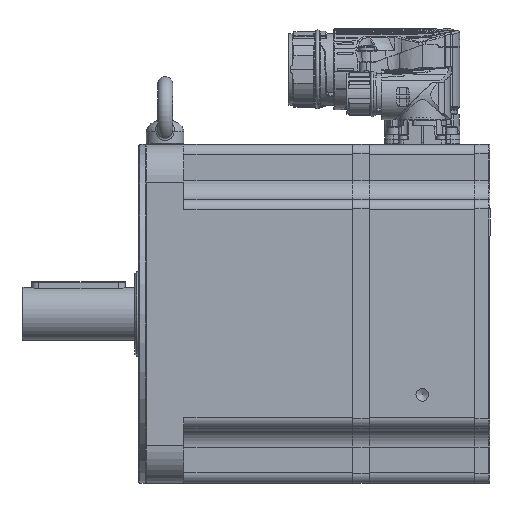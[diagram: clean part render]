
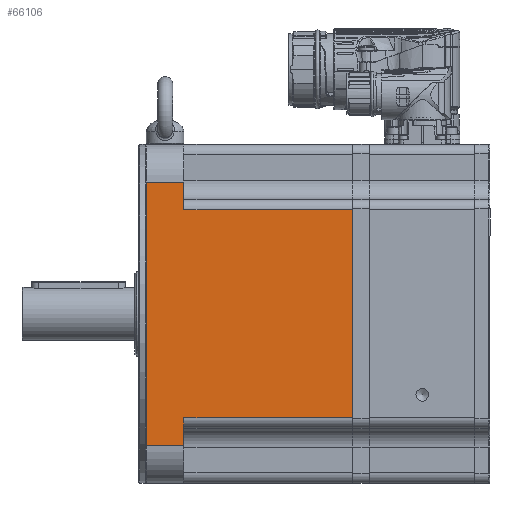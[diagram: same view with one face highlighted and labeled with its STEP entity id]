
A CAD part, left-side view. The second image highlights one B-rep face of the part: STEP entity #66106.
In plain terms, the highlighted planar face has unit normal (-1, 0, 0) as drawn and (1, 0, 0) by its records, which use the part's own axes.
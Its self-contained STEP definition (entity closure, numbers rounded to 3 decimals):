
#1289=PLANE('',#69838);
#5244=LINE('',#90854,#7763);
#5258=LINE('',#90934,#7777);
#5265=LINE('',#90979,#7784);
#5273=LINE('',#91003,#7792);
#5274=LINE('',#91004,#7793);
#5275=LINE('',#91006,#7794);
#5276=LINE('',#91008,#7795);
#5277=LINE('',#91009,#7796);
#7763=VECTOR('',#76048,1000.);
#7777=VECTOR('',#76122,1000.);
#7784=VECTOR('',#76167,1000.);
#7792=VECTOR('',#76191,1000.);
#7793=VECTOR('',#76192,1000.);
#7794=VECTOR('',#76193,1000.);
#7795=VECTOR('',#76194,1000.);
#7796=VECTOR('',#76195,1000.);
#12763=ORIENTED_EDGE('',*,*,#25047,.F.);
#12764=ORIENTED_EDGE('',*,*,#25115,.T.);
#12765=ORIENTED_EDGE('',*,*,#25083,.F.);
#12766=ORIENTED_EDGE('',*,*,#25116,.T.);
#12767=ORIENTED_EDGE('',*,*,#25117,.F.);
#12768=ORIENTED_EDGE('',*,*,#25118,.T.);
#12769=ORIENTED_EDGE('',*,*,#25103,.F.);
#12770=ORIENTED_EDGE('',*,*,#25119,.T.);
#25047=EDGE_CURVE('',#31478,#31479,#5244,.T.);
#25083=EDGE_CURVE('',#31514,#31515,#5258,.T.);
#25103=EDGE_CURVE('',#31534,#31535,#5265,.T.);
#25115=EDGE_CURVE('',#31478,#31515,#5273,.F.);
#25116=EDGE_CURVE('',#31514,#31542,#5274,.T.);
#25117=EDGE_CURVE('',#31543,#31542,#5275,.T.);
#25118=EDGE_CURVE('',#31543,#31535,#5276,.F.);
#25119=EDGE_CURVE('',#31534,#31479,#5277,.T.);
#31478=VERTEX_POINT('',#90853);
#31479=VERTEX_POINT('',#90855);
#31514=VERTEX_POINT('',#90933);
#31515=VERTEX_POINT('',#90935);
#31534=VERTEX_POINT('',#90980);
#31535=VERTEX_POINT('',#90981);
#31542=VERTEX_POINT('',#91005);
#31543=VERTEX_POINT('',#91007);
#37985=EDGE_LOOP('',(#12763,#12764,#12765,#12766,#12767,#12768,#12769,#12770));
#41758=FACE_BOUND('',#37985,.T.);
#66106=ADVANCED_FACE('',(#41758),#1289,.T.);
#69838=AXIS2_PLACEMENT_3D('',#91002,#76189,#76190);
#76048=DIRECTION('',(0.,0.,-1.));
#76122=DIRECTION('',(0.,0.,-1.));
#76167=DIRECTION('',(0.,0.,-1.));
#76189=DIRECTION('',(1.,0.,0.));
#76190=DIRECTION('',(0.,1.,0.));
#76191=DIRECTION('',(0.,1.,0.));
#76192=DIRECTION('',(0.,-1.,0.));
#76193=DIRECTION('',(0.,0.,1.));
#76194=DIRECTION('',(0.,-1.,0.));
#76195=DIRECTION('',(0.,1.,0.));
#90853=CARTESIAN_POINT('',(90.,110.8,55.2));
#90854=CARTESIAN_POINT('',(90.,110.8,-90.));
#90855=CARTESIAN_POINT('',(90.,110.8,-55.2));
#90933=CARTESIAN_POINT('',(90.,21.3,70.));
#90934=CARTESIAN_POINT('',(90.,21.3,-90.));
#90935=CARTESIAN_POINT('',(90.,21.3,55.2));
#90979=CARTESIAN_POINT('',(90.,21.3,-90.));
#90980=CARTESIAN_POINT('',(90.,21.3,-55.2));
#90981=CARTESIAN_POINT('',(90.,21.3,-70.));
#91002=CARTESIAN_POINT('',(90.,491.763,-90.));
#91003=CARTESIAN_POINT('',(90.,491.763,55.2));
#91004=CARTESIAN_POINT('',(90.,491.763,70.));
#91005=CARTESIAN_POINT('',(90.,1.3,70.));
#91006=CARTESIAN_POINT('',(90.,1.3,-90.));
#91007=CARTESIAN_POINT('',(90.,1.3,-70.));
#91008=CARTESIAN_POINT('',(90.,491.763,-70.));
#91009=CARTESIAN_POINT('',(90.,491.763,-55.2));
